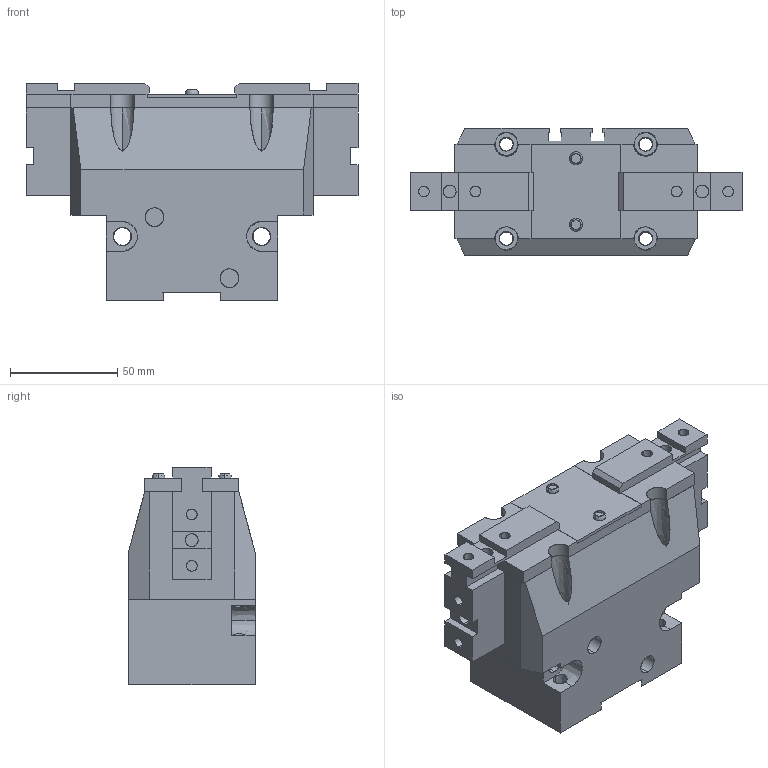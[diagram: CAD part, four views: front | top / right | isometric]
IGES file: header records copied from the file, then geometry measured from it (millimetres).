
Global section: file name: C:\Documents and Settings\Administrateur\Mes documents\OPE-115-OPEN.igs; native system: AutoCAD-16.0s (LMS Tech) (Microsoft Windows NT Version 5.1 (x86)); preprocessor: Autodesk IGES Translator Mechanical Desktop.R7.0.43.0 (Mar 18 2003) from Autodesk, Inc.; date: 20050629.122218; units: millimetre
Bounding box: 155 x 59.2 x 101.5 mm (x, y, z)
Surface area: 98182.4 mm2 (no closed solid volume)
Topology: 0 solids, 0 shells, 271 faces, 2724 edges, 2805 vertices
Faces by surface type: bspline 271
